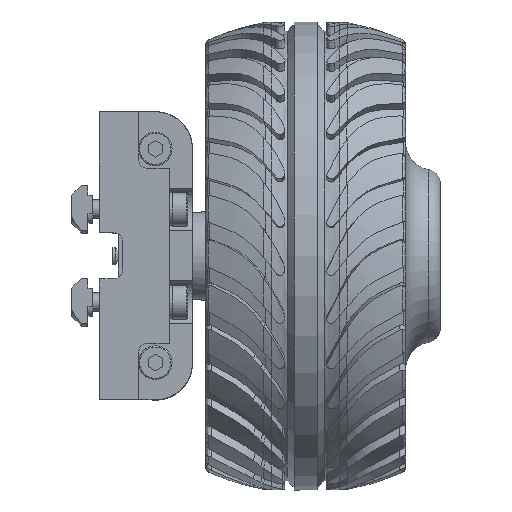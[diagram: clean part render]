
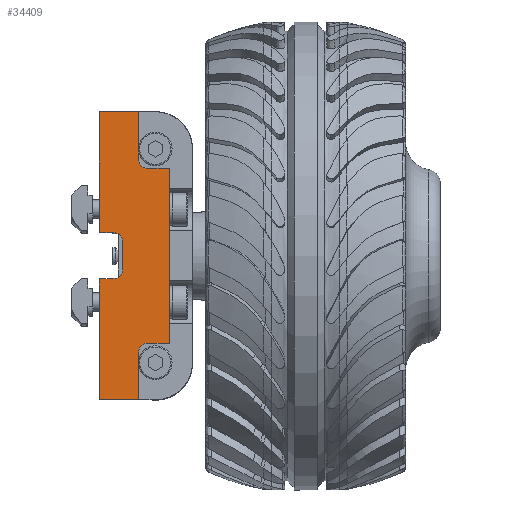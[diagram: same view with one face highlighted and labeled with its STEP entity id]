
A CAD part, top view. The second image highlights one B-rep face of the part: STEP entity #34409.
In plain terms, the highlighted planar face has unit normal (0, 0, 1).
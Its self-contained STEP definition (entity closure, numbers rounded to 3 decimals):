
#4383=PLANE('',#36704);
#4812=FACE_OUTER_BOUND('',#6928,.T.);
#6928=EDGE_LOOP('',(#23100,#23101,#23102,#23103,#23104,#23105,#23106,#23107,
#23108,#23109,#23110,#23111,#23112,#23113,#23114,#23115));
#9205=LINE('',#46315,#10861);
#9241=LINE('',#46418,#10897);
#9246=LINE('',#46427,#10902);
#9249=LINE('',#46440,#10905);
#9250=LINE('',#46443,#10906);
#9251=LINE('',#46445,#10907);
#9252=LINE('',#46447,#10908);
#9253=LINE('',#46451,#10909);
#9254=LINE('',#46455,#10910);
#9255=LINE('',#46456,#10911);
#9256=LINE('',#46458,#10912);
#9257=LINE('',#46461,#10913);
#10861=VECTOR('',#39343,10.);
#10897=VECTOR('',#39439,10.);
#10902=VECTOR('',#39446,10.);
#10905=VECTOR('',#39461,10.);
#10906=VECTOR('',#39464,10.);
#10907=VECTOR('',#39465,10.);
#10908=VECTOR('',#39466,10.);
#10909=VECTOR('',#39469,10.);
#10910=VECTOR('',#39472,10.);
#10911=VECTOR('',#39473,10.);
#10912=VECTOR('',#39474,10.);
#10913=VECTOR('',#39477,10.);
#12531=CIRCLE('',#36705,2.);
#12532=CIRCLE('',#36706,2.);
#12533=CIRCLE('',#36707,2.);
#12534=CIRCLE('',#36708,2.);
#13855=VERTEX_POINT('',#46312);
#13856=VERTEX_POINT('',#46314);
#13892=VERTEX_POINT('',#46415);
#13893=VERTEX_POINT('',#46417);
#13895=VERTEX_POINT('',#46424);
#13896=VERTEX_POINT('',#46426);
#13900=VERTEX_POINT('',#46439);
#13901=VERTEX_POINT('',#46441);
#13902=VERTEX_POINT('',#46444);
#13903=VERTEX_POINT('',#46446);
#13904=VERTEX_POINT('',#46448);
#13905=VERTEX_POINT('',#46450);
#13906=VERTEX_POINT('',#46452);
#13907=VERTEX_POINT('',#46454);
#13908=VERTEX_POINT('',#46457);
#13909=VERTEX_POINT('',#46459);
#17432=EDGE_CURVE('',#13856,#13855,#9205,.T.);
#17484=EDGE_CURVE('',#13893,#13892,#9241,.T.);
#17489=EDGE_CURVE('',#13896,#13895,#9246,.T.);
#17494=EDGE_CURVE('',#13855,#13900,#9249,.T.);
#17495=EDGE_CURVE('',#13900,#13901,#12531,.T.);
#17496=EDGE_CURVE('',#13901,#13893,#9250,.T.);
#17497=EDGE_CURVE('',#13892,#13902,#9251,.T.);
#17498=EDGE_CURVE('',#13902,#13903,#9252,.T.);
#17499=EDGE_CURVE('',#13903,#13904,#12532,.T.);
#17500=EDGE_CURVE('',#13904,#13905,#9253,.T.);
#17501=EDGE_CURVE('',#13905,#13906,#12533,.T.);
#17502=EDGE_CURVE('',#13906,#13907,#9254,.T.);
#17503=EDGE_CURVE('',#13907,#13896,#9255,.T.);
#17504=EDGE_CURVE('',#13895,#13908,#9256,.T.);
#17505=EDGE_CURVE('',#13908,#13909,#12534,.T.);
#17506=EDGE_CURVE('',#13909,#13856,#9257,.T.);
#23100=ORIENTED_EDGE('',*,*,#17432,.T.);
#23101=ORIENTED_EDGE('',*,*,#17494,.T.);
#23102=ORIENTED_EDGE('',*,*,#17495,.T.);
#23103=ORIENTED_EDGE('',*,*,#17496,.T.);
#23104=ORIENTED_EDGE('',*,*,#17484,.T.);
#23105=ORIENTED_EDGE('',*,*,#17497,.T.);
#23106=ORIENTED_EDGE('',*,*,#17498,.T.);
#23107=ORIENTED_EDGE('',*,*,#17499,.T.);
#23108=ORIENTED_EDGE('',*,*,#17500,.T.);
#23109=ORIENTED_EDGE('',*,*,#17501,.T.);
#23110=ORIENTED_EDGE('',*,*,#17502,.T.);
#23111=ORIENTED_EDGE('',*,*,#17503,.T.);
#23112=ORIENTED_EDGE('',*,*,#17489,.T.);
#23113=ORIENTED_EDGE('',*,*,#17504,.T.);
#23114=ORIENTED_EDGE('',*,*,#17505,.T.);
#23115=ORIENTED_EDGE('',*,*,#17506,.T.);
#34409=ADVANCED_FACE('',(#4812),#4383,.T.);
#36704=AXIS2_PLACEMENT_3D('',#46438,#39459,#39460);
#36705=AXIS2_PLACEMENT_3D('',#46442,#39462,#39463);
#36706=AXIS2_PLACEMENT_3D('',#46449,#39467,#39468);
#36707=AXIS2_PLACEMENT_3D('',#46453,#39470,#39471);
#36708=AXIS2_PLACEMENT_3D('',#46460,#39475,#39476);
#39343=DIRECTION('',(0.,1.,0.));
#39439=DIRECTION('',(-1.,0.,0.));
#39446=DIRECTION('',(1.,0.,0.));
#39459=DIRECTION('center_axis',(0.,0.,
1.));
#39460=DIRECTION('ref_axis',(-1.,0.,0.));
#39461=DIRECTION('',(-1.,0.,0.));
#39462=DIRECTION('center_axis',(0.,0.,
-1.));
#39463=DIRECTION('ref_axis',(-1.,0.,0.));
#39464=DIRECTION('',(0.,1.,0.));
#39465=DIRECTION('',(0.,-1.,0.));
#39466=DIRECTION('',(1.,0.,0.));
#39467=DIRECTION('center_axis',(0.,0.,
-1.));
#39468=DIRECTION('ref_axis',(1.,0.,0.));
#39469=DIRECTION('',(0.,-1.,0.));
#39470=DIRECTION('center_axis',(0.,0.,
-1.));
#39471=DIRECTION('ref_axis',(0.,-1.,0.));
#39472=DIRECTION('',(-1.,0.,0.));
#39473=DIRECTION('',(0.,-1.,0.));
#39474=DIRECTION('',(0.,1.,0.));
#39475=DIRECTION('center_axis',(0.,0.,
-1.));
#39476=DIRECTION('ref_axis',(0.,1.,0.));
#39477=DIRECTION('',(1.,0.,0.));
#46312=CARTESIAN_POINT('',(6.,18.8,39.));
#46314=CARTESIAN_POINT('',(6.,-18.8,39.));
#46315=CARTESIAN_POINT('',(6.,-10.029,39.));
#46415=CARTESIAN_POINT('',(-9.,31.,39.));
#46417=CARTESIAN_POINT('',(-0.6,31.,39.));
#46418=CARTESIAN_POINT('',(3.,31.,39.));
#46424=CARTESIAN_POINT('',(-0.6,-31.,39.));
#46426=CARTESIAN_POINT('',(-9.,-31.,39.));
#46427=CARTESIAN_POINT('',(-9.,-31.,39.));
#46438=CARTESIAN_POINT('Origin',(1.,0.,
39.));
#46439=CARTESIAN_POINT('',(1.4,18.8,39.));
#46440=CARTESIAN_POINT('',(1.4,18.8,39.));
#46441=CARTESIAN_POINT('',(-0.6,20.8,39.));
#46442=CARTESIAN_POINT('Origin',(1.4,20.8,39.));
#46443=CARTESIAN_POINT('',(-0.6,20.8,39.));
#46444=CARTESIAN_POINT('',(-9.,5.,39.));
#46445=CARTESIAN_POINT('',(-9.,31.,39.));
#46446=CARTESIAN_POINT('',(-6.,5.,39.));
#46447=CARTESIAN_POINT('',(-4.,5.,39.));
#46448=CARTESIAN_POINT('',(-4.,3.,39.));
#46449=CARTESIAN_POINT('Origin',(-6.,3.,39.));
#46450=CARTESIAN_POINT('',(-4.,-3.,39.));
#46451=CARTESIAN_POINT('',(-4.,1.5,39.));
#46452=CARTESIAN_POINT('',(-6.,-5.,39.));
#46453=CARTESIAN_POINT('Origin',(-6.,-3.,39.));
#46454=CARTESIAN_POINT('',(-9.,-5.,39.));
#46455=CARTESIAN_POINT('',(-2.5,-5.,39.));
#46456=CARTESIAN_POINT('',(-9.,31.,39.));
#46457=CARTESIAN_POINT('',(-0.6,-20.8,39.));
#46458=CARTESIAN_POINT('',(-0.6,-20.8,39.));
#46459=CARTESIAN_POINT('',(1.4,-18.8,39.));
#46460=CARTESIAN_POINT('Origin',(1.4,-20.8,39.));
#46461=CARTESIAN_POINT('',(1.4,-18.8,39.));
